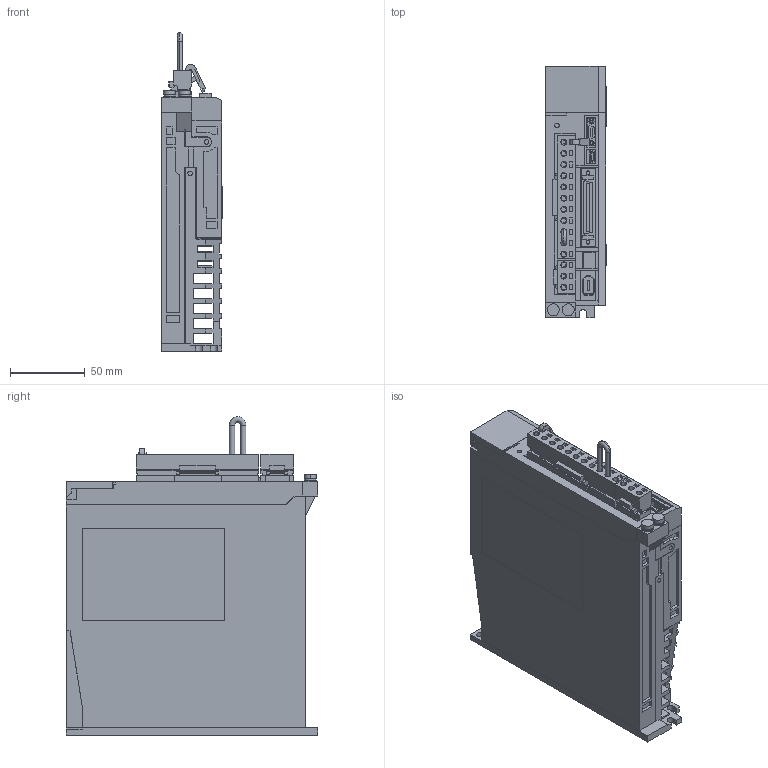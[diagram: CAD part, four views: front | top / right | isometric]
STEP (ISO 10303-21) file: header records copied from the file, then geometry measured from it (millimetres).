
FILE_DESCRIPTION (( 'STEP AP203' ), '1' );
FILE_NAME ('sgdxs_2r8a00a.STEP', '2021-02-18T23:50:43', ( 'YMANOUCHI' ), ( 'TAKUMI-Engniaring' ), 'SwSTEP 2.0', 'SolidWorks 2005204', '' );
FILE_SCHEMA (( 'CONFIG_CONTROL_DESIGN' ));
Length unit declared in the file: millimetre
Products named in the file (11): sgdxs_2r8a00a_connector_2; sgdxs_2r8a00a_connector_3; sgdxs_2r8a00a_cover3; sgdxs_2r8a00a; sgdxs_2r8a00a_base; sgdxs_2r8a00a_connector; sgdxs_2r8a00a_pin; sgdxs_2r8a00a_cable; sgdxs_2r8a00a_connector_1; sgdxs_2r8a00a_cover; sgdxs_2r8a00a_cover2
Assembly tree (10 placements, depth 3):
  sgdxs_2r8a00a
    sgdxs_2r8a00a_cover
    sgdxs_2r8a00a_connector
      sgdxs_2r8a00a_cable
      sgdxs_2r8a00a_connector_2
      sgdxs_2r8a00a_pin
    sgdxs_2r8a00a_cover2
    sgdxs_2r8a00a_cover3
    sgdxs_2r8a00a_base
    sgdxs_2r8a00a_connector_1
    sgdxs_2r8a00a_connector_3
Bounding box: 40.5 x 168 x 213 mm (x, y, z)
Volume: 936200.1 mm3; surface area: 169566.3 mm2
Topology: 9 solids, 9 shells, 1665 faces, 4383 edges, 2893 vertices
Faces by surface type: plane 1443, cylinder 216, cone 4, torus 2
Entity records: 51832 total; most frequent: CARTESIAN_POINT 8955, ORIENTED_EDGE 8766, DIRECTION 8183, EDGE_CURVE 4383, VECTOR 3941, LINE 3941, VERTEX_POINT 2893, AXIS2_PLACEMENT_3D 2121
